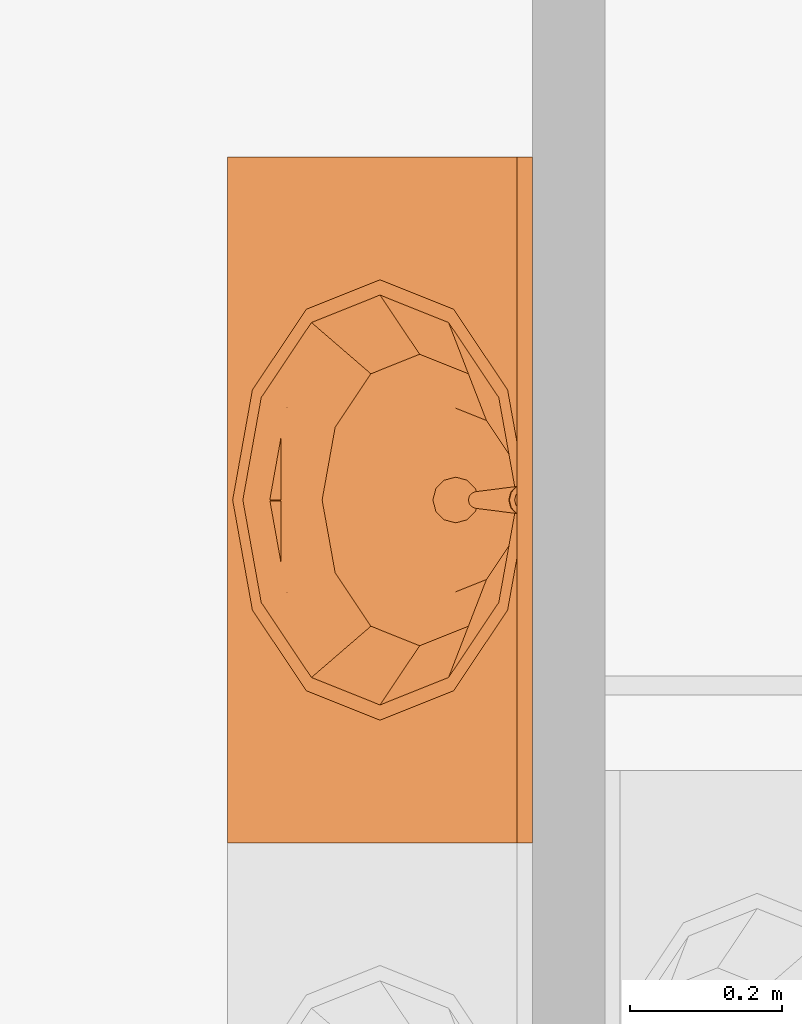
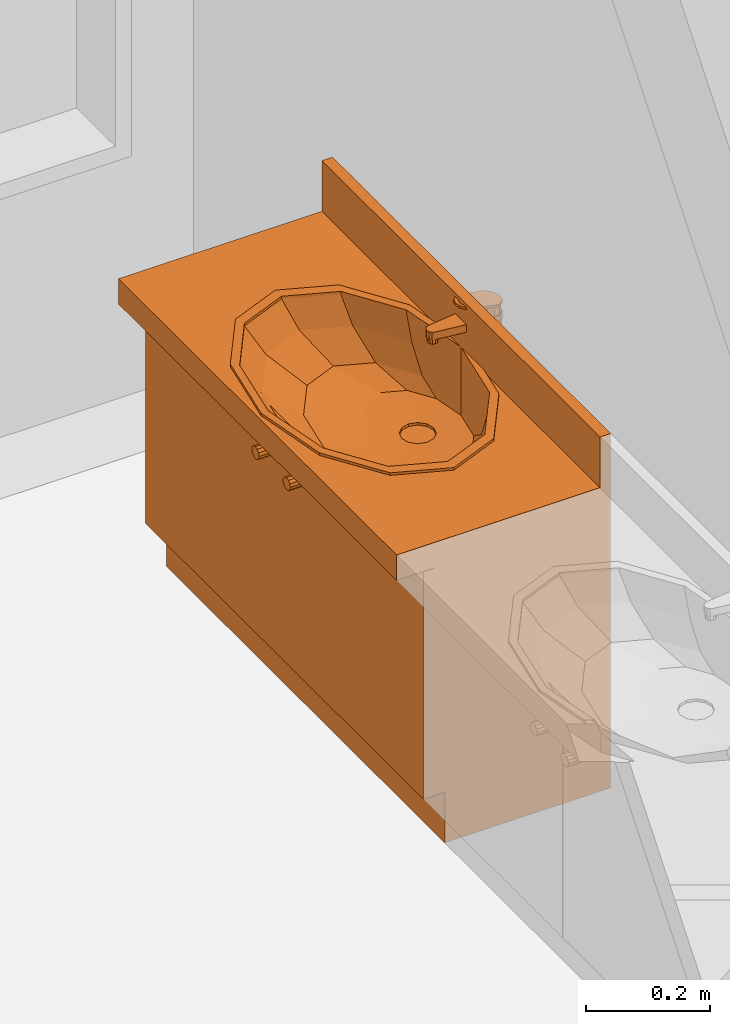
# One storey, part 11 of 14: 1 proxy.
"""IFC2X3 building model written with IfcOpenShell, lengths in millimetres."""

from ifc_helpers import new_model, entity, si_unit, converted_unit, direction, frame, origin_with_axes, place, context, project, spatial, open_shell, faceted_brep, surface_model, material, element, save


model = new_model("IFC2X3")

# Units and contexts
model_context = context("Model", 3, precision=1e-05, world=origin_with_axes(), true_north=direction((0.0, 1.0)))
ifc_project = project(units=[si_unit("LENGTHUNIT", "METRE", prefix="MILLI"), si_unit("AREAUNIT", "SQUARE_METRE"), si_unit("VOLUMEUNIT", "CUBIC_METRE"), converted_unit("PLANEANGLEUNIT", "DEGREE", entity("IfcPlaneAngleMeasure", 0.017453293), si_unit("PLANEANGLEUNIT", "RADIAN"), dimensions=[0, 0, 0, 0, 0, 0, 0]), si_unit("SOLIDANGLEUNIT", "STERADIAN"), si_unit("MASSUNIT", "GRAM"), si_unit("TIMEUNIT", "SECOND"), si_unit("THERMODYNAMICTEMPERATUREUNIT", "DEGREE_CELSIUS"), si_unit("LUMINOUSINTENSITYUNIT", "LUMEN")], contexts=[model_context])

# Site, building, storey
site_placement = place(None, origin_with_axes())
site = spatial("IfcSite", under=ifc_project, at=site_placement, Name="\x83T\x83C\x83g", CompositionType="ELEMENT")
building_placement = place(site_placement, origin_with_axes())
building = spatial("IfcBuilding", under=site, at=building_placement, Name="Daitec-Sample 201208", CompositionType="ELEMENT")
storey_placement = place(building_placement, frame((0.0, 0.0, 8000.0), z_axis=(0.0, 0.0, 1.0), x_axis=(1.0, 0.0, 0.0)))
storey = spatial("IfcBuildingStorey", under=building, at=storey_placement, Name="3F", CompositionType="ELEMENT", Elevation=8000.0)

# Proxy
ifc_material = material(Name="\x94w\x8ci")
proxy_placement = place(storey_placement, frame((20550.071, 22200.379, 0.0), z_axis=(0.0, 0.0, 1.0), x_axis=(0.0, -1.0, 0.0)))
element("IfcBuildingElementProxy", 1, at=proxy_placement, inside=storey, material=ifc_material, Name="O2", context=model_context, shape_type="Brep", body=[
    faceted_brep([(0.0, 90.0, 0.0), (0.0, 90.0, 100.0), (-900.0, 90.0, 100.0), (-900.0, 90.0, 0.0), (0.0, 400.0, 0.0), (0.0, 400.0, 100.0), (-900.0, 400.0, 100.0), (-900.0, 400.0, 0.0)], [[[0, 1, 2, 3]], [[4, 5, 1, 0]], [[1, 5, 6, 2]], [[3, 2, 6, 7]], [[0, 3, 7, 4]], [[7, 6, 5, 4]]]),
    faceted_brep([(0.0, 70.0, 100.0), (0.0, 70.0, 120.0), (-20.0, 70.0, 120.0), (-20.0, 70.0, 100.0), (0.0, 400.0, 100.0), (0.0, 400.0, 120.0), (-20.0, 400.0, 120.0), (-880.0, 400.0, 120.0), (-900.0, 400.0, 120.0), (-900.0, 70.0, 120.0), (-880.0, 70.0, 120.0), (-880.0, 70.0, 100.0), (-900.0, 70.0, 100.0), (-900.0, 400.0, 100.0), (-880.0, 400.0, 100.0), (-20.0, 400.0, 100.0)], [[[0, 1, 2, 3]], [[4, 5, 1, 0]], [[1, 5, 6, 7, 8, 9, 10, 2]], [[3, 2, 10, 11]], [[0, 3, 11, 12, 13, 14, 15, 4]], [[15, 6, 5, 4]], [[14, 7, 6, 15]], [[13, 8, 7, 14]], [[12, 9, 8, 13]], [[11, 10, 9, 12]]]),
    faceted_brep([(0.0, 70.0, 120.0), (0.0, 70.0, 550.0), (-20.0, 70.0, 550.0), (-20.0, 70.0, 120.0), (0.0, 400.0, 120.0), (0.0, 400.0, 550.0), (-900.0, 400.0, 550.0), (-900.0, 70.0, 550.0), (-880.0, 70.0, 550.0), (-880.0, 380.0, 550.0), (-20.0, 380.0, 550.0), (-20.0, 380.0, 120.0), (-880.0, 380.0, 120.0), (-880.0, 70.0, 120.0), (-900.0, 70.0, 120.0), (-900.0, 400.0, 120.0)], [[[0, 1, 2, 3]], [[4, 5, 1, 0]], [[1, 5, 6, 7, 8, 9, 10, 2]], [[3, 2, 10, 11]], [[0, 3, 11, 12, 13, 14, 15, 4]], [[15, 6, 5, 4]], [[14, 7, 6, 15]], [[13, 8, 7, 14]], [[12, 9, 8, 13]], [[11, 10, 9, 12]]]),
    faceted_brep([(-880.0, 70.0, 223.33333), (-880.0, 70.0, 243.33333), (-880.0, 380.0, 243.33333), (-880.0, 380.0, 223.33333), (-20.0, 70.0, 223.33333), (-20.0, 70.0, 243.33333), (-20.0, 380.0, 243.33333), (-20.0, 380.0, 223.33333)], [[[0, 1, 2, 3]], [[4, 5, 1, 0]], [[1, 5, 6, 2]], [[3, 2, 6, 7]], [[0, 3, 7, 4]], [[7, 6, 5, 4]]]),
    faceted_brep([(-880.0, 70.0, 366.66667), (-880.0, 70.0, 386.66667), (-880.0, 380.0, 386.66667), (-880.0, 380.0, 366.66667), (-20.0, 70.0, 366.66667), (-20.0, 70.0, 386.66667), (-20.0, 380.0, 386.66667), (-20.0, 380.0, 366.66667)], [[[0, 1, 2, 3]], [[4, 5, 1, 0]], [[1, 5, 6, 2]], [[3, 2, 6, 7]], [[0, 3, 7, 4]], [[7, 6, 5, 4]]]),
    faceted_brep([(0.0, 400.0, 550.0), (0.0, 0.0, 550.0), (-900.0, 0.0, 550.0), (-900.0, 400.0, 550.0), (-216.17314, 290.0, 550.0), (-315.0, 355.88457, 550.0), (-450.0, 380.0, 550.0), (-585.0, 355.88457, 550.0), (-683.82686, 290.0, 550.0), (-720.0, 200.0, 550.0), (-683.82686, 110.0, 550.0), (-585.0, 44.115427, 550.0), (-450.0, 20.0, 550.0), (-315.0, 44.115427, 550.0), (-216.17314, 110.0, 550.0), (-180.0, 200.0, 550.0), (0.0, 400.0, 600.0), (0.0, 0.0, 600.0), (-900.0, 0.0, 600.0), (-900.0, 400.0, 600.0), (-216.17314, 290.0, 600.0), (-315.0, 355.88457, 600.0), (-450.0, 380.0, 600.0), (-585.0, 355.88457, 600.0), (-683.82686, 290.0, 600.0), (-720.0, 200.0, 600.0), (-683.82686, 110.0, 600.0), (-585.0, 44.115427, 600.0), (-450.0, 20.0, 600.0), (-315.0, 44.115427, 600.0), (-216.17314, 110.0, 600.0), (-180.0, 200.0, 600.0)], [[[0, 1, 2, 3], [4, 5, 6, 7, 8, 9, 10, 11, 12, 13, 14, 15]], [[1, 0, 16, 17]], [[2, 1, 17, 18]], [[3, 2, 18, 19]], [[0, 3, 19, 16]], [[20, 21, 5, 4]], [[21, 22, 6, 5]], [[22, 23, 7, 6]], [[23, 24, 8, 7]], [[24, 25, 9, 8]], [[25, 26, 10, 9]], [[26, 27, 11, 10]], [[27, 28, 12, 11]], [[28, 29, 13, 12]], [[29, 30, 14, 13]], [[30, 31, 15, 14]], [[31, 20, 4, 15]], [[18, 17, 16, 19], [24, 23, 22, 21, 20, 31, 30, 29, 28, 27, 26, 25]]]),
    faceted_brep([(0.0, 380.0, 600.0), (0.0, 380.0, 700.0), (-900.0, 380.0, 700.0), (-900.0, 380.0, 600.0), (0.0, 400.0, 600.0), (0.0, 400.0, 700.0), (-900.0, 400.0, 700.0), (-900.0, 400.0, 600.0)], [[[0, 1, 2, 3]], [[4, 5, 1, 0]], [[1, 5, 6, 2]], [[3, 2, 6, 7]], [[0, 3, 7, 4]], [[7, 6, 5, 4]]]),
    faceted_brep([(-739.0, 200.0, 605.0), (-700.28134, 296.69145, 605.0), (-700.28134, 296.69145, 600.0), (-739.0, 200.0, 600.0), (-700.28134, 103.30855, 605.0), (-594.5, 32.525496, 605.0), (-450.0, 6.6171004, 605.0), (-305.5, 32.525496, 605.0), (-199.71866, 103.30855, 605.0), (-161.0, 200.0, 605.0), (-199.71866, 296.69145, 605.0), (-305.5, 367.4745, 605.0), (-450.0, 393.3829, 605.0), (-594.5, 367.4745, 605.0), (-719.0, 200.0, 605.0), (-682.96083, 290.0, 605.0), (-584.5, 355.88457, 605.0), (-450.0, 380.0, 605.0), (-315.5, 355.88457, 605.0), (-217.03917, 290.0, 605.0), (-181.0, 200.0, 605.0), (-217.03917, 110.0, 605.0), (-315.5, 44.115427, 605.0), (-450.0, 20.0, 605.0), (-584.5, 44.115427, 605.0), (-682.96083, 110.0, 605.0), (-594.5, 367.4745, 600.0), (-450.0, 393.3829, 600.0), (-305.5, 367.4745, 600.0), (-199.71866, 296.69145, 600.0), (-161.0, 200.0, 600.0), (-199.71866, 103.30855, 600.0), (-305.5, 32.525496, 600.0), (-450.0, 6.6171004, 600.0), (-594.5, 32.525496, 600.0), (-700.28134, 103.30855, 600.0), (-719.0, 200.0, 600.0), (-682.96083, 110.0, 600.0), (-584.5, 44.115427, 600.0), (-450.0, 20.0, 600.0), (-315.5, 44.115427, 600.0), (-217.03917, 110.0, 600.0), (-181.0, 200.0, 600.0), (-217.03917, 290.0, 600.0), (-315.5, 355.88457, 600.0), (-450.0, 380.0, 600.0), (-584.5, 355.88457, 600.0), (-682.96083, 290.0, 600.0)], [[[0, 1, 2, 3]], [[0, 4, 5, 6, 7, 8, 9, 10, 11, 12, 13, 1], [14, 15, 16, 17, 18, 19, 20, 21, 22, 23, 24, 25]], [[1, 13, 26, 2]], [[3, 2, 26, 27, 28, 29, 30, 31, 32, 33, 34, 35], [36, 37, 38, 39, 40, 41, 42, 43, 44, 45, 46, 47]], [[4, 0, 3, 35]], [[5, 4, 35, 34]], [[6, 5, 34, 33]], [[7, 6, 33, 32]], [[8, 7, 32, 31]], [[9, 8, 31, 30]], [[10, 9, 30, 29]], [[11, 10, 29, 28]], [[12, 11, 28, 27]], [[13, 12, 27, 26]], [[15, 14, 36, 47]], [[16, 15, 47, 46]], [[17, 16, 46, 45]], [[18, 17, 45, 44]], [[19, 18, 44, 43]], [[20, 19, 43, 42]], [[21, 20, 42, 41]], [[22, 21, 41, 40]], [[23, 22, 40, 39]], [[24, 23, 39, 38]], [[25, 24, 38, 37]], [[14, 25, 37, 36]]]),
    surface_model("IfcShellBasedSurfaceModel", [(-450.0, 380.0, 600.0), (-584.5, 355.88457, 600.0), (-571.05, 358.29612, 548.0), (-450.0, 380.0, 548.0), (-682.96083, 290.0, 600.0), (-659.66475, 299.0, 548.0), (-315.5, 355.88457, 600.0), (-328.95, 358.29612, 548.0), (-719.0, 200.0, 600.0), (-692.1, 218.0, 548.0), (-217.03917, 290.0, 600.0), (-240.33525, 299.0, 548.0), (-682.96083, 110.0, 600.0), (-659.66475, 137.0, 548.0), (-181.0, 200.0, 600.0), (-207.9, 218.0, 548.0), (-584.5, 44.115427, 600.0), (-571.05, 77.703885, 548.0), (-217.03917, 110.0, 600.0), (-240.33525, 137.0, 548.0), (-450.0, 20.0, 600.0), (-450.0, 56.0, 548.0), (-315.5, 44.115427, 600.0), (-328.95, 77.703885, 548.0)], [open_shell([[[0, 1, 2, 3]], [[1, 4, 5, 2]], [[6, 0, 3, 7]], [[4, 8, 9, 5]], [[10, 6, 7, 11]], [[8, 12, 13, 9]], [[14, 10, 11, 15]], [[12, 16, 17, 13]], [[18, 14, 15, 19]], [[16, 20, 21, 17]], [[22, 18, 19, 23]], [[20, 22, 23, 21]]])]),
    surface_model("IfcShellBasedSurfaceModel", [(-450.0, 380.0, 548.0), (-571.05, 358.29612, 548.0), (-545.6295, 362.85393, 496.0), (-450.0, 380.0, 496.0), (-659.66475, 299.0, 548.0), (-615.63515, 316.01, 496.0), (-328.95, 358.29612, 548.0), (-354.3705, 362.85393, 496.0), (-692.1, 218.0, 548.0), (-641.259, 252.02, 496.0), (-240.33525, 299.0, 548.0), (-284.36485, 316.01, 496.0), (-659.66475, 137.0, 548.0), (-615.63515, 188.03, 496.0), (-207.9, 218.0, 548.0), (-258.741, 252.02, 496.0), (-571.05, 77.703885, 548.0), (-545.6295, 141.18607, 496.0), (-240.33525, 137.0, 548.0), (-284.36485, 188.03, 496.0), (-450.0, 56.0, 548.0), (-450.0, 124.04, 496.0), (-328.95, 77.703885, 548.0), (-354.3705, 141.18607, 496.0)], [open_shell([[[0, 1, 2, 3]], [[1, 4, 5, 2]], [[6, 0, 3, 7]], [[4, 8, 9, 5]], [[10, 6, 7, 11]], [[8, 12, 13, 9]], [[14, 10, 11, 15]], [[12, 16, 17, 13]], [[18, 14, 15, 19]], [[16, 20, 21, 17]], [[22, 18, 19, 23]], [[20, 22, 23, 21]]])]),
    surface_model("IfcShellBasedSurfaceModel", [(-450.0, 380.0, 496.0), (-545.6295, 362.85393, 496.0), (-510.24659, 369.19798, 470.0), (-450.0, 380.0, 470.0), (-615.63515, 316.01, 496.0), (-554.35015, 339.6863, 470.0), (-354.3705, 362.85393, 496.0), (-389.75341, 369.19798, 470.0), (-641.259, 252.02, 496.0), (-570.49317, 299.3726, 470.0), (-284.36485, 316.01, 496.0), (-345.64985, 339.6863, 470.0), (-615.63515, 188.03, 496.0), (-554.35015, 259.0589, 470.0), (-258.741, 252.02, 496.0), (-329.50683, 299.3726, 470.0), (-545.6295, 141.18607, 496.0), (-510.24659, 229.54722, 470.0), (-284.36485, 188.03, 496.0), (-345.64985, 259.0589, 470.0), (-450.0, 124.04, 496.0), (-450.0, 218.7452, 470.0), (-354.3705, 141.18607, 496.0), (-389.75341, 229.54722, 470.0)], [open_shell([[[0, 1, 2, 3]], [[1, 4, 5, 2]], [[6, 0, 3, 7]], [[4, 8, 9, 5]], [[10, 6, 7, 11]], [[8, 12, 13, 9]], [[14, 10, 11, 15]], [[12, 16, 17, 13]], [[18, 14, 15, 19]], [[16, 20, 21, 17]], [[22, 18, 19, 23]], [[20, 22, 23, 21]]])]),
    surface_model("IfcShellBasedSurfaceModel", [(-450.0, 380.0, 470.0), (-510.24659, 369.19798, 470.0), (-465.0, 325.35336, 463.0), (-475.98076, 314.3726, 463.0), (-450.0, 329.3726, 463.0), (-554.35015, 339.6863, 470.0), (-389.75341, 369.19798, 470.0), (-480.0, 299.3726, 463.0), (-435.0, 325.35336, 463.0), (-570.49317, 299.3726, 470.0), (-345.64985, 339.6863, 470.0), (-475.98076, 284.3726, 463.0), (-424.01924, 314.3726, 463.0), (-554.35015, 259.0589, 470.0), (-329.50683, 299.3726, 470.0), (-465.0, 273.39184, 463.0), (-420.0, 299.3726, 463.0), (-510.24659, 229.54722, 470.0), (-345.64985, 259.0589, 470.0), (-450.0, 269.3726, 463.0), (-424.01924, 284.3726, 463.0), (-450.0, 218.7452, 470.0), (-389.75341, 229.54722, 470.0), (-435.0, 273.39184, 463.0)], [open_shell([[[0, 1, 2]], [[1, 3, 2]], [[0, 2, 4]], [[1, 5, 3]], [[6, 0, 4]], [[5, 7, 3]], [[6, 4, 8]], [[5, 9, 7]], [[10, 6, 8]], [[9, 11, 7]], [[10, 8, 12]], [[9, 13, 11]], [[14, 10, 12]], [[13, 15, 11]], [[14, 12, 16]], [[13, 17, 15]], [[18, 14, 16]], [[17, 19, 15]], [[18, 16, 20]], [[17, 21, 19]], [[22, 18, 20]], [[21, 23, 19]], [[22, 20, 23]], [[21, 22, 23]]])]),
    surface_model("IfcShellBasedSurfaceModel", [(-480.0, 299.3726, 463.0), (-475.98076, 314.3726, 463.0), (-475.98076, 314.3726, 458.0), (-480.0, 299.3726, 458.0), (-465.0, 325.35336, 463.0), (-465.0, 325.35336, 458.0), (-450.0, 329.3726, 458.0), (-435.0, 325.35336, 458.0), (-424.01924, 314.3726, 458.0), (-420.0, 299.3726, 458.0), (-424.01924, 284.3726, 458.0), (-435.0, 273.39184, 458.0), (-450.0, 269.3726, 458.0), (-465.0, 273.39184, 458.0), (-475.98076, 284.3726, 458.0), (-475.98076, 284.3726, 463.0), (-450.0, 329.3726, 463.0), (-435.0, 325.35336, 463.0), (-424.01924, 314.3726, 463.0), (-420.0, 299.3726, 463.0), (-424.01924, 284.3726, 463.0), (-435.0, 273.39184, 463.0), (-450.0, 269.3726, 463.0), (-465.0, 273.39184, 463.0)], [open_shell([[[0, 1, 2, 3]], [[1, 4, 5, 2]], [[3, 2, 5, 6, 7, 8, 9, 10, 11, 12, 13, 14]], [[15, 0, 3, 14]], [[4, 16, 6, 5]], [[16, 17, 7, 6]], [[17, 18, 8, 7]], [[18, 19, 9, 8]], [[19, 20, 10, 9]], [[20, 21, 11, 10]], [[21, 22, 12, 11]], [[22, 23, 13, 12]], [[23, 15, 14, 13]]])]),
    faceted_brep([(-462.5, 451.65064, 600.0), (-460.58732, 448.33778, 676.50709), (-450.0, 451.20192, 675.96154), (-450.0, 455.0, 600.0), (-471.65064, 442.5, 600.0), (-468.27355, 440.55024, 677.99043), (-471.0, 430.0, 680.0), (-468.10034, 419.54976, 681.99052), (-460.41411, 411.96224, 683.43576), (-450.0, 409.19811, 683.96226), (-439.58589, 411.96224, 683.43576), (-431.89966, 419.54976, 681.99052), (-429.0, 430.0, 680.0), (-431.72645, 440.55024, 677.99043), (-439.41268, 448.33778, 676.50709), (-437.5, 451.65064, 600.0), (-428.34936, 442.5, 600.0), (-425.0, 430.0, 600.0), (-428.34936, 417.5, 600.0), (-437.5, 408.34936, 600.0), (-450.0, 405.0, 600.0), (-462.5, 408.34936, 600.0), (-471.65064, 417.5, 600.0), (-475.0, 430.0, 600.0)], [[[0, 1, 2, 3]], [[4, 5, 1, 0]], [[1, 5, 6, 7, 8, 9, 10, 11, 12, 13, 14, 2]], [[3, 2, 14, 15]], [[0, 3, 15, 16, 17, 18, 19, 20, 21, 22, 23, 4]], [[23, 6, 5, 4]], [[22, 7, 6, 23]], [[21, 8, 7, 22]], [[20, 9, 8, 21]], [[19, 10, 9, 20]], [[18, 11, 10, 19]], [[17, 12, 11, 18]], [[16, 13, 12, 17]], [[15, 14, 13, 16]]]),
    faceted_brep([(-459.0, 327.0, 635.0), (-459.0, 327.0, 645.0), (-457.79423, 331.5, 645.0), (-457.79423, 331.5, 635.0), (-457.79423, 322.5, 635.0), (-457.79423, 322.5, 645.0), (-454.5, 319.20577, 645.0), (-450.0, 318.0, 645.0), (-445.5, 319.20577, 645.0), (-442.20577, 322.5, 645.0), (-441.0, 327.0, 645.0), (-442.20577, 331.5, 645.0), (-445.5, 334.79423, 645.0), (-450.0, 336.0, 645.0), (-454.5, 334.79423, 645.0), (-454.5, 334.79423, 635.0), (-450.0, 336.0, 635.0), (-445.5, 334.79423, 635.0), (-442.20577, 331.5, 635.0), (-441.0, 327.0, 635.0), (-442.20577, 322.5, 635.0), (-445.5, 319.20577, 635.0), (-450.0, 318.0, 635.0), (-454.5, 319.20577, 635.0)], [[[0, 1, 2, 3]], [[4, 5, 1, 0]], [[1, 5, 6, 7, 8, 9, 10, 11, 12, 13, 14, 2]], [[3, 2, 14, 15]], [[0, 3, 15, 16, 17, 18, 19, 20, 21, 22, 23, 4]], [[23, 6, 5, 4]], [[22, 7, 6, 23]], [[21, 8, 7, 22]], [[20, 9, 8, 21]], [[19, 10, 9, 20]], [[18, 11, 10, 19]], [[17, 12, 11, 18]], [[16, 13, 12, 17]], [[15, 14, 13, 16]]]),
    faceted_brep([(-440.97112, 320.71681, 660.0), (-439.08801, 325.61163, 660.0), (-426.1946, 426.9501, 660.0), (-428.27219, 440.19321, 660.0), (-437.12828, 450.2563, 660.0), (-450.0, 453.99998, 660.0), (-462.87172, 450.2563, 660.0), (-471.72781, 440.1932, 660.0), (-473.8054, 426.9501, 660.0), (-460.912, 325.6117, 660.0), (-459.02892, 320.71687, 660.0), (-455.09339, 317.25031, 660.0), (-450.00004, 316.00004, 660.0), (-444.90668, 317.25027, 660.0), (-469.05256, 441.0, 660.0), (-461.0, 449.05256, 660.0), (-450.0, 452.0, 660.0), (-439.0, 449.05256, 660.0), (-430.94744, 441.0, 660.0), (-428.0, 430.0, 660.0), (-430.94744, 419.0, 660.0), (-439.0, 410.94744, 660.0), (-450.0, 408.0, 660.0), (-461.0, 410.94744, 660.0), (-469.05256, 419.0, 660.0), (-472.0, 430.0, 660.0), (-440.97112, 320.71681, 645.0), (-439.08801, 325.61163, 645.0), (-426.1946, 426.9501, 645.0), (-428.27219, 440.19321, 645.0), (-437.12828, 450.2563, 645.0), (-450.0, 453.99998, 645.0), (-462.87172, 450.2563, 645.0), (-471.72781, 440.1932, 645.0), (-473.8054, 426.9501, 645.0), (-460.912, 325.6117, 645.0), (-459.02892, 320.71687, 645.0), (-455.09339, 317.25031, 645.0), (-450.00004, 316.00004, 645.0), (-444.90668, 317.25027, 645.0), (-469.70208, 441.375, 645.0), (-461.375, 449.70208, 645.0), (-450.0, 452.75, 645.0), (-438.625, 449.70208, 645.0), (-430.29792, 441.375, 645.0), (-427.25, 430.0, 645.0), (-430.29792, 418.625, 645.0), (-438.625, 410.29792, 645.0), (-450.0, 407.25, 645.0), (-461.375, 410.29792, 645.0), (-469.70208, 418.625, 645.0), (-472.75, 430.0, 645.0)], [[[0, 1, 2, 3, 4, 5, 6, 7, 8, 9, 10, 11, 12, 13], [14, 15, 16, 17, 18, 19, 20, 21, 22, 23, 24, 25]], [[26, 27, 1, 0]], [[27, 28, 2, 1]], [[28, 29, 3, 2]], [[29, 30, 4, 3]], [[30, 31, 5, 4]], [[31, 32, 6, 5]], [[32, 33, 7, 6]], [[33, 34, 8, 7]], [[34, 35, 9, 8]], [[35, 36, 10, 9]], [[36, 37, 11, 10]], [[37, 38, 12, 11]], [[38, 39, 13, 12]], [[39, 26, 0, 13]], [[40, 41, 15, 14]], [[41, 42, 16, 15]], [[42, 43, 17, 16]], [[43, 44, 18, 17]], [[44, 45, 19, 18]], [[20, 19, 45, 46]], [[21, 20, 46, 47]], [[22, 21, 47, 48]], [[23, 22, 48, 49]], [[24, 23, 49, 50]], [[50, 51, 25, 24]], [[51, 40, 14, 25]], [[28, 27, 26, 39, 38, 37, 36, 35, 34, 33, 32, 31, 30, 29], [44, 43, 42, 41, 40, 51, 50, 49, 48, 47, 46, 45]]]),
    faceted_brep([(-473.893, 428.30743, 680.32239), (-473.893, 429.05588, 684.25175), (-471.29642, 441.52317, 681.87703), (-471.29642, 440.77472, 677.94767), (-470.94594, 388.1633, 687.9689), (-470.94594, 388.91175, 691.89825), (-467.66314, 379.23408, 693.74161), (-460.06144, 372.2847, 695.06531), (-449.99956, 369.76284, 695.54566), (-439.93779, 372.28512, 695.06523), (-432.33638, 379.23481, 693.74148), (-429.054, 388.91261, 691.89808), (-426.10698, 429.05616, 684.2517), (-428.70371, 441.52342, 681.87698), (-437.52832, 450.83965, 680.10246), (-450.00014, 454.28041, 679.44708), (-462.47192, 450.8395, 680.10249), (-464.0, 405.20765, 688.79427), (-436.0, 405.20765, 688.79427), (-436.0, 390.39202, 691.61629), (-437.87564, 383.51565, 692.92608), (-443.0, 378.48179, 693.88491), (-450.0, 376.63928, 694.23586), (-457.0, 378.48179, 693.88491), (-462.12436, 383.51565, 692.92608), (-464.0, 390.39202, 691.61629), (-462.47192, 450.09105, 676.17313), (-450.00014, 453.53196, 675.51772), (-437.52832, 450.0912, 676.17311), (-428.70371, 440.77497, 677.94763), (-426.10698, 428.30771, 680.32234), (-429.054, 388.16417, 687.96873), (-432.33638, 378.48636, 689.81212), (-439.93779, 371.53667, 691.13587), (-449.99956, 369.01439, 691.61631), (-460.06144, 371.53625, 691.13595), (-467.66314, 378.48563, 689.81226), (-464.0, 404.4592, 684.86491), (-464.0, 389.64357, 687.68694), (-462.12436, 382.7672, 688.99672), (-457.0, 377.73334, 689.95555), (-450.0, 375.89083, 690.30651), (-443.0, 377.73334, 689.95555), (-437.87564, 382.7672, 688.99672), (-436.0, 389.64357, 687.68694), (-436.0, 404.4592, 684.86491)], [[[0, 1, 2, 3]], [[4, 5, 1, 0]], [[1, 5, 6, 7, 8, 9, 10, 11, 12, 13, 14, 15, 16, 2], [17, 18, 19, 20, 21, 22, 23, 24, 25]], [[3, 2, 16, 26]], [[0, 3, 26, 27, 28, 29, 30, 31, 32, 33, 34, 35, 36, 4], [37, 38, 39, 40, 41, 42, 43, 44, 45]], [[36, 6, 5, 4]], [[35, 7, 6, 36]], [[34, 8, 7, 35]], [[33, 9, 8, 34]], [[32, 10, 9, 33]], [[31, 11, 10, 32]], [[30, 12, 11, 31]], [[29, 13, 12, 30]], [[28, 14, 13, 29]], [[27, 15, 14, 28]], [[26, 16, 15, 27]], [[45, 18, 17, 37]], [[44, 19, 18, 45]], [[43, 20, 19, 44]], [[42, 21, 20, 43]], [[41, 22, 21, 42]], [[40, 23, 22, 41]], [[39, 24, 23, 40]], [[38, 25, 24, 39]], [[37, 17, 25, 38]]]),
    faceted_brep([(0.0, 70.0, 100.0), (0.0, 50.0, 100.0), (-449.0, 50.0, 100.0), (-449.0, 70.0, 100.0), (0.0, 70.0, 549.0), (0.0, 50.0, 549.0), (-449.0, 50.0, 549.0), (-449.0, 70.0, 549.0)], [[[0, 1, 2, 3]], [[4, 5, 1, 0]], [[1, 5, 6, 2]], [[3, 2, 6, 7]], [[0, 3, 7, 4]], [[7, 6, 5, 4]]]),
    faceted_brep([(-409.3923, 50.0, 484.0), (-411.0, 50.0, 490.0), (-409.3923, 50.0, 496.0), (-405.0, 50.0, 500.3923), (-399.0, 50.0, 502.0), (-393.0, 50.0, 500.3923), (-388.6077, 50.0, 496.0), (-387.0, 50.0, 490.0), (-388.6077, 50.0, 484.0), (-393.0, 50.0, 479.6077), (-399.0, 50.0, 478.0), (-405.0, 50.0, 479.6077), (-409.3923, 25.0, 484.0), (-411.0, 25.0, 490.0), (-409.3923, 25.0, 496.0), (-405.0, 25.0, 500.3923), (-399.0, 25.0, 502.0), (-393.0, 25.0, 500.3923), (-388.6077, 25.0, 496.0), (-387.0, 25.0, 490.0), (-388.6077, 25.0, 484.0), (-393.0, 25.0, 479.6077), (-399.0, 25.0, 478.0), (-405.0, 25.0, 479.6077)], [[[0, 1, 2, 3, 4, 5, 6, 7, 8, 9, 10, 11]], [[0, 12, 13, 1]], [[1, 13, 14, 2]], [[2, 14, 15, 3]], [[3, 15, 16, 4]], [[4, 16, 17, 5]], [[5, 17, 18, 6]], [[6, 18, 19, 7]], [[7, 19, 20, 8]], [[8, 20, 21, 9]], [[9, 21, 22, 10]], [[10, 22, 23, 11]], [[11, 23, 12, 0]], [[12, 23, 22, 21, 20, 19, 18, 17, 16, 15, 14, 13]]]),
    faceted_brep([(-899.0, 70.0, 100.0), (-450.0, 70.0, 100.0), (-450.0, 50.0, 100.0), (-899.0, 50.0, 100.0), (-899.0, 70.0, 549.0), (-450.0, 70.0, 549.0), (-450.0, 50.0, 549.0), (-899.0, 50.0, 549.0)], [[[0, 1, 2, 3]], [[0, 4, 5, 1]], [[1, 5, 6, 2]], [[3, 2, 6, 7]], [[4, 0, 3, 7]], [[5, 4, 7, 6]]]),
    faceted_brep([(-489.6077, 50.0, 484.0), (-494.0, 50.0, 479.6077), (-500.0, 50.0, 478.0), (-506.0, 50.0, 479.6077), (-510.3923, 50.0, 484.0), (-512.0, 50.0, 490.0), (-510.3923, 50.0, 496.0), (-506.0, 50.0, 500.3923), (-500.0, 50.0, 502.0), (-494.0, 50.0, 500.3923), (-489.6077, 50.0, 496.0), (-488.0, 50.0, 490.0), (-489.6077, 25.0, 484.0), (-494.0, 25.0, 479.6077), (-500.0, 25.0, 478.0), (-506.0, 25.0, 479.6077), (-510.3923, 25.0, 484.0), (-512.0, 25.0, 490.0), (-510.3923, 25.0, 496.0), (-506.0, 25.0, 500.3923), (-500.0, 25.0, 502.0), (-494.0, 25.0, 500.3923), (-489.6077, 25.0, 496.0), (-488.0, 25.0, 490.0)], [[[0, 1, 2, 3, 4, 5, 6, 7, 8, 9, 10, 11]], [[1, 0, 12, 13]], [[2, 1, 13, 14]], [[3, 2, 14, 15]], [[4, 3, 15, 16]], [[5, 4, 16, 17]], [[6, 5, 17, 18]], [[7, 6, 18, 19]], [[8, 7, 19, 20]], [[9, 8, 20, 21]], [[10, 9, 21, 22]], [[11, 10, 22, 23]], [[0, 11, 23, 12]], [[12, 23, 22, 21, 20, 19, 18, 17, 16, 15, 14, 13]]]),
])

save(model, "model.ifc")
